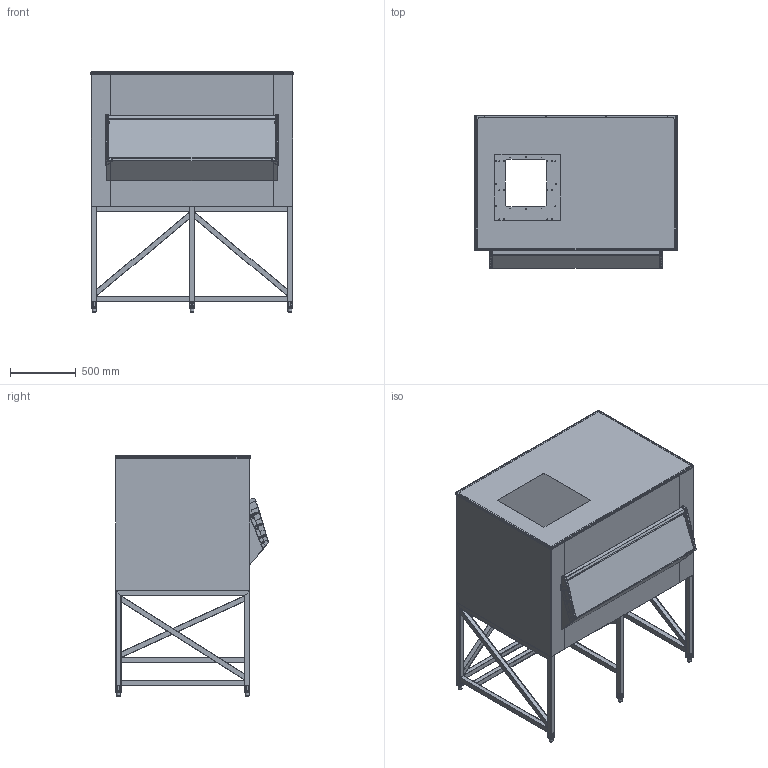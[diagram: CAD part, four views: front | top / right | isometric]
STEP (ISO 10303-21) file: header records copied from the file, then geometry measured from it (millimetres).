
FILE_DESCRIPTION(/* description */ ('Unknown'),/* implementation_level */ '2;1');
FILE_NAME(/* name */ 'SCD600',/* time_stamp */ '2018-04-24T11:57:55+02:00',/* author */ ('Unknown'),/* organization */ ('Unknown'),/* preprocessor_version */ 'ST-DEVELOPER v16.7',/* originating_system */ 'DEX',/* authorisation */ $);
FILE_SCHEMA (('CONFIG_CONTROL_DESIGN'));
Products named in the file (44): SCD600; SILO_SC600_oa_0; 42-92+SC600_oa_1; 42-91+SC600_oa_2; 42-30+SC600_oa_3; 42-108+30175; 42-108+30176; 42-110+30178; 42-101+8763; 42-109+30177; 42-104_oa_4; 42-31+8877; 42-47+8750; 42-96+8882_oa_5; 42-84+8758; 42-35+8753; 42-46+8865; 42-36+8734; 42-46+8864; 42-102+8979; 42-102+8978; 42-67_oa_6; tubo 40x40x1.5_oa_7; tubo 40x40x1.5_oa_8; tubo 40x40x1.5_oa_9; tubo 40x40x1.5_oa_10; tubo 40x40x1.5_oa_11; tubo 40x40x1.5_oa_12; tubo 40x40x1.5_oa_13; tubo 40x40x1.5_oa_14; tubo 40x40x1.5_oa_15; tubo 40x40x1.5_oa_16; tubo 40x40x1.5_oa_17; tubo 40x40x1.5_oa_18; tubo 40x40x1.5_oa_19; tubo 40x40x1.5_oa_20; tubo 40x40x1.5_oa_21; tubo 40x40x1.5_oa_22; tubo 40x40x1.5_oa_23; tubo 40x40x1.5_oa_24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
Assembly tree (48 placements, depth 7):
  SCD600
    SILO_SC600_oa_0
      42-92+SC600_oa_1
        42-91+SC600_oa_2
          42-30+SC600_oa_3
            42-108+30175
            42-108+30176
            42-110+30178
            42-101+8763
            42-109+30177
            42-104_oa_4
              42-31+8877
        42-47+8750
        42-96+8882_oa_5
          42-84+8758
        42-35+8753
        42-46+8865
        42-36+8734
        42-46+8864
        42-102+8979
        42-102+8978
    42-67_oa_6
      tubo 40x40x1.5_oa_7
      tubo 40x40x1.5_oa_8
      tubo 40x40x1.5_oa_9
      tubo 40x40x1.5_oa_10
      tubo 40x40x1.5_oa_11
      tubo 40x40x1.5_oa_12
      tubo 40x40x1.5_oa_13
      tubo 40x40x1.5_oa_14
      tubo 40x40x1.5_oa_15
      tubo 40x40x1.5_oa_16
      tubo 40x40x1.5_oa_17
      tubo 40x40x1.5_oa_18
      tubo 40x40x1.5_oa_19
      tubo 40x40x1.5_oa_20
      tubo 40x40x1.5_oa_21
      tubo 40x40x1.5_oa_22
      tubo 40x40x1.5_oa_23
      tubo 40x40x1.5_oa_24
      tubo 40x40x1.5_oa_25
      tubo 40x40x1.5_oa_26
      tubo 40x40x1.5_oa_27
    30138+pata_reg_inox_tubo_40x40  x6
Bounding box: 1532.2 x 1162.9 x 1820 mm (x, y, z)
Volume: 12298123.8 mm3; surface area: 25184425.2 mm2
Topology: 41 solids, 41 shells, 3810 faces, 10333 edges, 6440 vertices
Faces by surface type: plane 1837, cylinder 1331, bspline 308, cone 160, sphere 152, torus 22
Full cylindrical faces by diameter (mm): 2.7 x20, 3.5 x30, 4 x8, 4.2 x74, 5 x54, 6 x2, 12 x4, 15 x3, 22 x5, 26 x6, 30 x6
Entity records: 106702 total; most frequent: CARTESIAN_POINT 24248, ORIENTED_EDGE 16730, DIRECTION 16472, EDGE_CURVE 8365, AXIS2_PLACEMENT_3D 5613, VERTEX_POINT 5423, LINE 5246, VECTOR 5246
